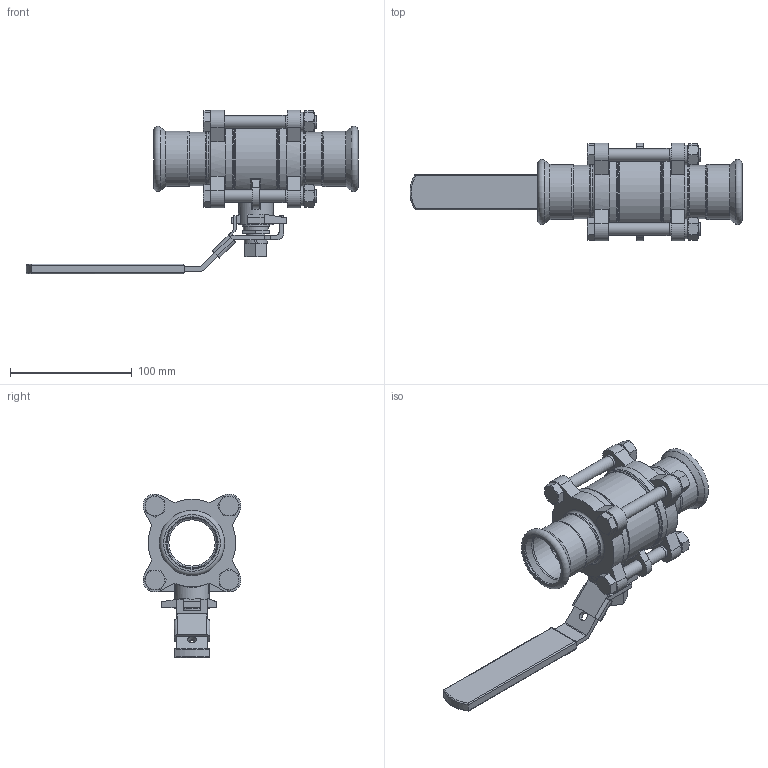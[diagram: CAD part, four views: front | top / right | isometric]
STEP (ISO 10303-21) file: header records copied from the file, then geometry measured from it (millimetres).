
FILE_DESCRIPTION(('STEP AP214'),'1');
FILE_NAME('11-2.stp','2025-03-26T07:39:00',(' '),(' '),'Spatial InterOp 3D',' ',' ');
FILE_SCHEMA(('AUTOMOTIVE_DESIGN { 1 0 10303 214 1 1 1 1 }'));
Length unit declared in the file: millimetre
Products named in the file (27): 3PC卡压球阀1-1-2; 零件19; 零件16; 阀体; 锁扣; 手柄套; 手柄; 垫圈 ： 单圈弹簧 - M10.0 x 2.6; 螺母 ： 标准 - M10.0 x 8.4; 螺栓 ： 六角头 - M10.0 x 87.0; 弹簧垫圈; 螺母 ： 标准 - M12.0 x 10.8; 格兰; 阀杆; 中口; 小片; 球
Assembly tree (26 placements, depth 2):
  3PC卡压球阀1-1-2
    零件19
    零件16
    零件16
    阀体
    锁扣
    手柄套
    手柄
    垫圈 ： 单圈弹簧 - M10.0 x 2.6
    螺母 ： 标准 - M10.0 x 8.4
    螺栓 ： 六角头 - M10.0 x 87.0
    垫圈 ： 单圈弹簧 - M10.0 x 2.6
    螺母 ： 标准 - M10.0 x 8.4
    螺栓 ： 六角头 - M10.0 x 87.0
    垫圈 ： 单圈弹簧 - M10.0 x 2.6
    螺母 ： 标准 - M10.0 x 8.4
    螺栓 ： 六角头 - M10.0 x 87.0
    垫圈 ： 单圈弹簧 - M10.0 x 2.6
    螺母 ： 标准 - M10.0 x 8.4
    螺栓 ： 六角头 - M10.0 x 87.0
    弹簧垫圈
    螺母 ： 标准 - M12.0 x 10.8
    格兰
    阀杆
    中口
    小片
    球
Bounding box: 272.91 x 80.4 x 134.7 mm (x, y, z)
Volume: 336718.2 mm3; surface area: 174372.7 mm2
Topology: 27 solids, 27 shells, 515 faces, 1171 edges, 724 vertices
Faces by surface type: plane 248, cylinder 114, cone 100, torus 34, bspline 14, sphere 5
Full cylindrical faces by diameter (mm): 7.5 x1, 10 x8, 10.5 x10, 12 x1, 12.9 x1, 15 x2, 15.2 x1, 15.5 x2, 19 x2, 19.1 x1, 20 x1, 20.38 x1, 20.8 x1, 20.9 x1, 22.2 x1, 28.5 x1, 38 x5, 41 x2, 42.3 x2, 43 x2, 44 x2, 45.3 x2, 45.5 x2, 61.5 x1, 62 x4, 66 x4, 69 x1, 72 x4
Entity records: 21011 total; most frequent: CARTESIAN_POINT 5438, DIRECTION 2256, ORIENTED_EDGE 2070, EDGE_CURVE 1035, AXIS2_PLACEMENT_3D 910, VERTEX_POINT 709, EDGE_LOOP 704, FACE_OUTER_BOUND 603
